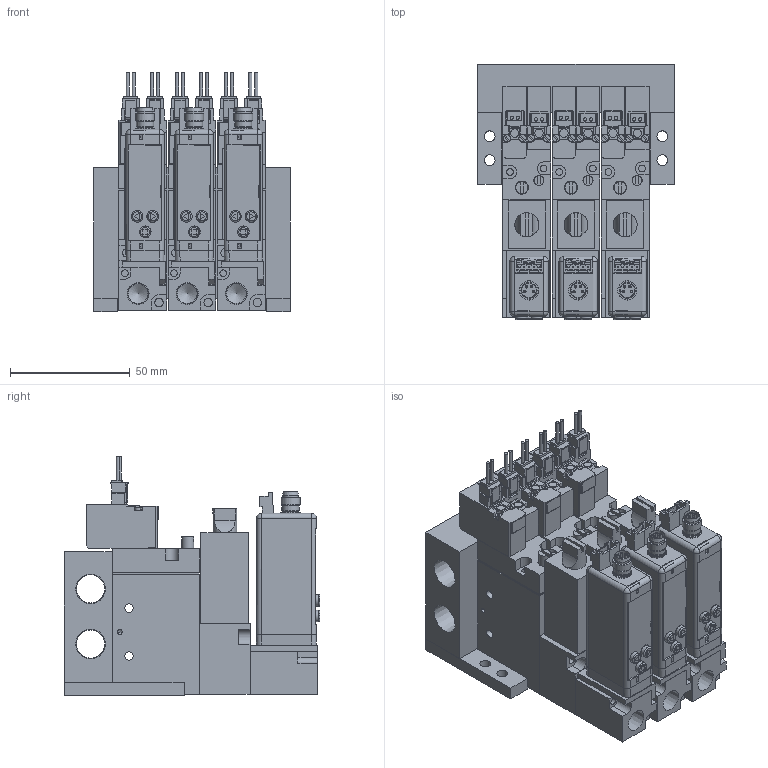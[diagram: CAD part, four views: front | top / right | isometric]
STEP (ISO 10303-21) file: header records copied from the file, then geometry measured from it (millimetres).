
FILE_DESCRIPTION(('STEP AP203'),'1');
FILE_NAME('BMPV32M2N20225AL303.stp','2025-06-16T08:52:52',(' '),(' '),'Spatial InterOp 3D',' ',' ');
FILE_SCHEMA(('CONFIG_CONTROL_DESIGN'));
Length unit declared in the file: millimetre
Products named in the file (40): BMPV32M2N20225AL303; MVS-202; ___-3(Rc); Filter Assy; __; _____; ___ ___; MB03; MB BRACKET; ___; upper plate-A; ______; ____; VACUUM VALVE FUNCTION MPV42-A; UV280-4E
Assembly tree (39 placements, depth 2):
  BMPV32M2N20225AL303
    MVS-202
    ___-3(Rc)
    Filter Assy
    __
    _____
    ___ ___
    MVS-202
    ___-3(Rc)
    Filter Assy
    __
    _____
    ___ ___
    MB03
    MB BRACKET
    MB BRACKET
    MVS-202
    ___-3(Rc)
    Filter Assy
    __
    _____
    ___ ___
    ___
    upper plate-A
    ______
    ____
    VACUUM VALVE FUNCTION MPV42-A
    ___
    upper plate-A
    ______
    ____
    VACUUM VALVE FUNCTION MPV42-A
    ___
    upper plate-A
    ______
    ____
    VACUUM VALVE FUNCTION MPV42-A
    UV280-4E
    UV280-4E
    UV280-4E
Bounding box: 82 x 106.6 x 99.75 mm (x, y, z)
Volume: 400087.1 mm3; surface area: 141614.9 mm2
Topology: 39 solids, 51 shells, 2396 faces, 6136 edges, 4018 vertices
Faces by surface type: plane 1950, cylinder 369, cone 56, sphere 12, torus 9
Full cylindrical faces by diameter (mm): 1 x12, 1.4 x12, 1.5 x3, 1.8 x6, 2 x6, 2.5 x10, 2.8 x12, 3 x12, 3.5 x34, 4 x3, 4.2 x3, 4.5 x16, 4.8 x9, 5 x9, 5.5 x3, 5.8 x6, 6 x3, 6.5 x15, 7 x3, 7.2 x3, 7.9 x3, 8 x6, 8.2 x3, 8.759 x3, 11.776 x2
Entity records: 72306 total; most frequent: CARTESIAN_POINT 12609, ORIENTED_EDGE 11572, DIRECTION 11526, EDGE_CURVE 5786, LINE 4822, VECTOR 4822, VERTEX_POINT 3967, AXIS2_PLACEMENT_3D 3352
